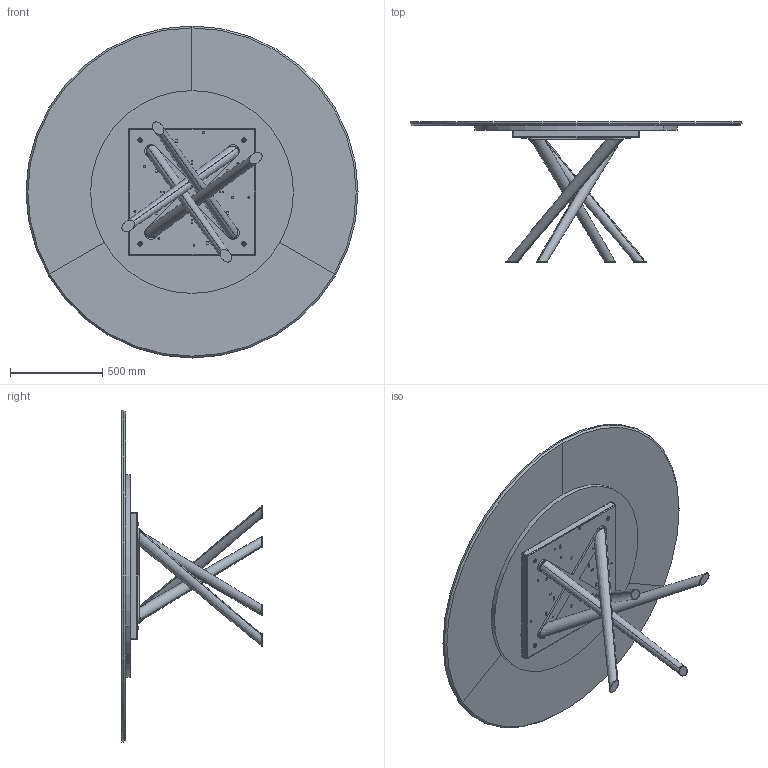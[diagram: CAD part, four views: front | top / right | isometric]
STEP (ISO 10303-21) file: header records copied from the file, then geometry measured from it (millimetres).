
FILE_DESCRIPTION (( 'STEP AP203' ), '1' );
FILE_NAME ('BA13M.STEP', '2024-08-08T06:37:44', ( '' ), ( '' ), 'SwSTEP 2.0', 'SolidWorks 2022', '' );
FILE_SCHEMA (( 'CONFIG_CONTROL_DESIGN' ));
Length unit declared in the file: millimetre
Products named in the file (14): BAB000000-00-BALY BASE GREZZA; COLLO TELAIO UNIVERSALE TTAV0801 CON FERRAMENTA_MTG TOP LEGNO-MARMO-KING; TTAV0801 TELAIO UNIVERSALE TONDO-PIASTRINA; TRU0000X-00-SOTTO PIANO D.XXXXmm_TRU00002 D.110cm ; BA13M; TTAV0801-02-TELAIO UNIVERSALE TONDO; TTAV0801-02-TELAIO UNIVERSALE TONDO-VASSOIO; BAB000000_02-00-basamento pali conificati; Parte5^BAB000000-00-BALY BASE GREZZA; M0XMXX-00-Piani Rotondi in marmo_1800; M8xXXmm_M8x55mm; M0X-00- D. piani marmo_D.1800; rondella M8_8X24; BAB000000_01-00-Croce Superiore baly
Assembly tree (22 placements, depth 4):
  BA13M
    M0XMXX-00-Piani Rotondi in marmo_1800
      TRU0000X-00-SOTTO PIANO D.XXXXmm_TRU00002 D.110cm 
      M0X-00- D. piani marmo_D.1800
    BAB000000-00-BALY BASE GREZZA
      BAB000000_01-00-Croce Superiore baly
      BAB000000_02-00-basamento pali conificati
      Parte5^BAB000000-00-BALY BASE GREZZA
    COLLO TELAIO UNIVERSALE TTAV0801 CON FERRAMENTA_MTG TOP LEGNO-MARMO-KING
      TTAV0801-02-TELAIO UNIVERSALE TONDO
        TTAV0801-02-TELAIO UNIVERSALE TONDO-VASSOIO
        TTAV0801 TELAIO UNIVERSALE TONDO-PIASTRINA  x4
      rondella M8_8X24  x4
      M8xXXmm_M8x55mm  x4
Bounding box: 1800 x 760 x 1800 mm (x, y, z)
Volume: 79041464.8 mm3; surface area: 10080609.6 mm2
Topology: 26 solids, 26 shells, 748 faces, 1910 edges, 1200 vertices
Faces by surface type: plane 322, cylinder 284, cone 86, torus 48, bspline 8
Entity records: 18339 total; most frequent: CARTESIAN_POINT 4347, DIRECTION 2617, ORIENTED_EDGE 2510, EDGE_CURVE 1255, AXIS2_PLACEMENT_3D 934, VERTEX_POINT 810, VECTOR 749, LINE 749
